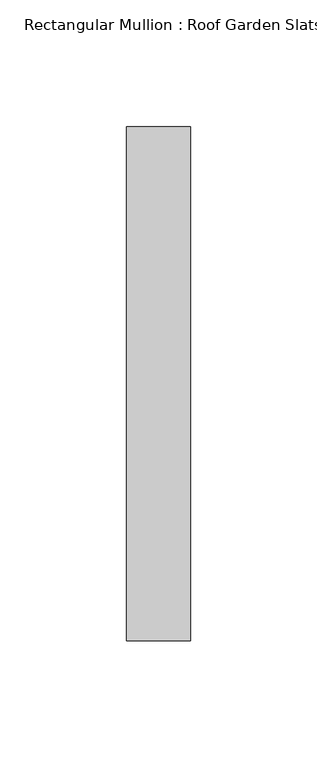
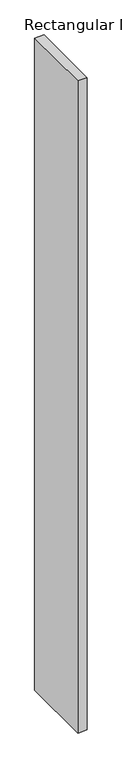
"""IFC4 building model written with IfcOpenShell, lengths in millimetres: member geometry, Rectangular Mullion : Roof Garden Slats."""

from ifc_helpers import new_model, si_unit, frame, origin, place, context, project, spatial, polyline, outline, extrude, source, transform, mapped, element, save


def rectangular_mullion_roof_garden_slats_66b4c197(model_context):
    return source(origin(), model_context, "Body", "SweptSolid", [
        extrude(outline(polyline([(12.7, 139.7), (12.7, -63.5), (-12.7, -63.5), (-12.7, 139.7), (12.7, 139.7)])), frame((0.0, 0.0, -1872.0279395), z_axis=(0.0, 0.0, 1.0), x_axis=(1.0, 0.0, 0.0)), (0.0, 0.0, 1.0), 1872.0279395),
    ])


if __name__ == "__main__":
    model = new_model("IFC4")
    model_context = context("Model", 3, world=origin())
    ifc_project = project(units=[si_unit("LENGTHUNIT", "METRE", prefix="MILLI")], contexts=[model_context])
    site = spatial("IfcSite", under=ifc_project)
    building = spatial("IfcBuilding", under=site)
    placement = place(None, origin())
    rectangular_mullion_roof_garden_slats_shape = rectangular_mullion_roof_garden_slats_66b4c197(model_context)
    element("IfcMember", 1, ObjectType="Rectangular Mullion : Roof Garden Slats", at=placement, inside=building, context=model_context, shape_type="MappedRepresentation", body=[
        mapped(rectangular_mullion_roof_garden_slats_shape, transform((0.0, 0.0, 0.0), x_axis=(1.0, 0.0, 0.0), y_axis=(0.0, 1.0, 0.0), z_axis=(0.0, 0.0, 1.0))),
    ])
    save(model, "model.ifc")
